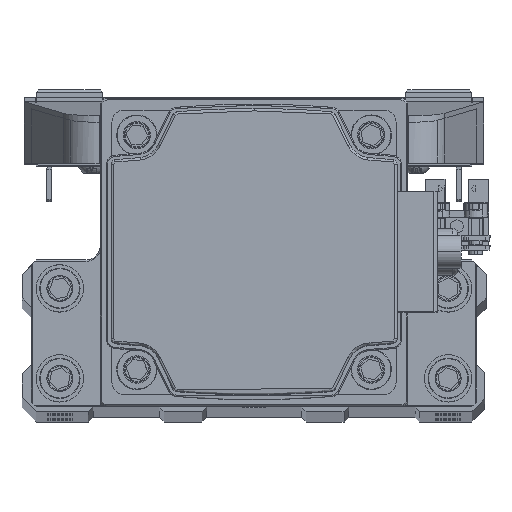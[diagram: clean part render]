
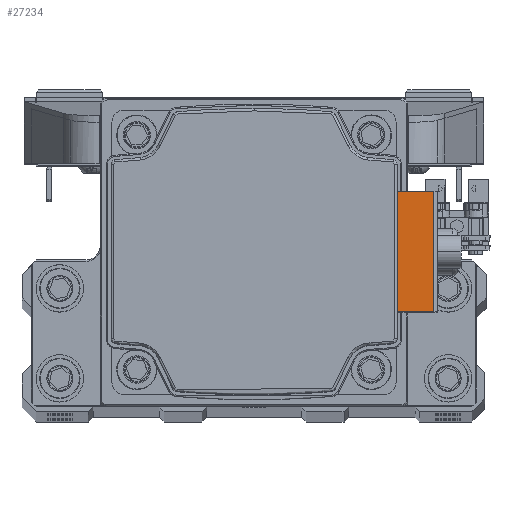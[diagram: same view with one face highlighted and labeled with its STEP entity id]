
A CAD part, top view. The second image highlights one B-rep face of the part: STEP entity #27234.
In plain terms, the highlighted planar face has unit normal (0, 0, 1) as drawn and (0, 0, -1) by its records, which use the part's own axes.
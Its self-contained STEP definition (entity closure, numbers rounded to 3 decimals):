
#835 = CARTESIAN_POINT ( 'NONE',  ( 0., 37.9, -88.696 ) ) ;
#1392 = DIRECTION ( 'NONE',  ( -1., 0., 0. ) ) ;
#3077 = CARTESIAN_POINT ( 'NONE',  ( -12.75, 37.9, -88.696 ) ) ;
#3351 = CARTESIAN_POINT ( 'NONE',  ( 12.75, 37.9, -88.696 ) ) ;
#5126 = PLANE ( 'NONE',  #9432 ) ;
#9319 = LINE ( 'NONE', #24472, #41599 ) ;
#9432 = AXIS2_PLACEMENT_3D ( 'NONE', #20300, #35406, #1392 ) ;
#12156 = CARTESIAN_POINT ( 'NONE',  ( 18.438, 30.2, -88.696 ) ) ;
#12339 = DIRECTION ( 'NONE',  ( 0., 1., 0. ) ) ;
#13516 = EDGE_CURVE ( 'NONE', #33596, #18176, #31187, .T. ) ;
#15353 = ORIENTED_EDGE ( 'NONE', *, *, #18340, .T. ) ;
#16005 = DIRECTION ( 'NONE',  ( 1., 0., 0. ) ) ;
#17555 = ORIENTED_EDGE ( 'NONE', *, *, #35966, .T. ) ;
#17562 = VECTOR ( 'NONE', #12339, 1000. ) ;
#18176 = VERTEX_POINT ( 'NONE', #3351 ) ;
#18340 = EDGE_CURVE ( 'NONE', #20271, #18176, #34839, .T. ) ;
#19370 = VECTOR ( 'NONE', #16005, 1000. ) ;
#20271 = VERTEX_POINT ( 'NONE', #3077 ) ;
#20300 = CARTESIAN_POINT ( 'NONE',  ( 0., 37.9, -88.696 ) ) ;
#21268 = ORIENTED_EDGE ( 'NONE', *, *, #21315, .F. ) ;
#21315 = EDGE_CURVE ( 'NONE', #46436, #33596, #46131, .T. ) ;
#23339 = ORIENTED_EDGE ( 'NONE', *, *, #13516, .F. ) ;
#24472 = CARTESIAN_POINT ( 'NONE',  ( -12.75, 37.9, -88.696 ) ) ;
#27037 = VECTOR ( 'NONE', #27287, 1000. ) ;
#27234 = ADVANCED_FACE ( 'NONE', ( #39134 ), #5126, .T. ) ;
#27287 = DIRECTION ( 'NONE',  ( 1., 0., 0. ) ) ;
#29564 = CARTESIAN_POINT ( 'NONE',  ( 12.75, 30.2, -88.696 ) ) ;
#31187 = LINE ( 'NONE', #46321, #17562 ) ;
#33217 = CARTESIAN_POINT ( 'NONE',  ( -12.75, 30.2, -88.696 ) ) ;
#33596 = VERTEX_POINT ( 'NONE', #29564 ) ;
#34839 = LINE ( 'NONE', #835, #19370 ) ;
#35406 = DIRECTION ( 'NONE',  ( 0., 0., -1. ) ) ;
#35966 = EDGE_CURVE ( 'NONE', #46436, #20271, #9319, .T. ) ;
#39134 = FACE_OUTER_BOUND ( 'NONE', #46536, .T. ) ;
#39578 = DIRECTION ( 'NONE',  ( 0., 1., 0. ) ) ;
#41599 = VECTOR ( 'NONE', #39578, 1000. ) ;
#46131 = LINE ( 'NONE', #12156, #27037 ) ;
#46321 = CARTESIAN_POINT ( 'NONE',  ( 12.75, 33.991, -88.696 ) ) ;
#46436 = VERTEX_POINT ( 'NONE', #33217 ) ;
#46536 = EDGE_LOOP ( 'NONE', ( #17555, #15353, #23339, #21268 ) ) ;
